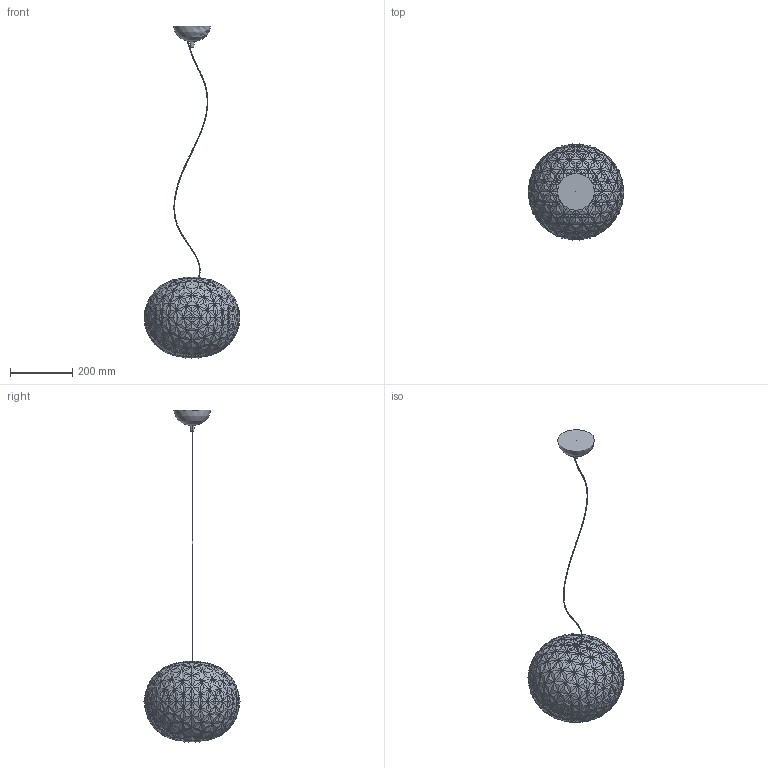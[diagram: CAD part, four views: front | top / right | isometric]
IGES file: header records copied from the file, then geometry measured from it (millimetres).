
Global section: file name: C:\Users\rendering\Desktop\3D\Planet sospensione\Planet_ceiling_3D_Tokujin Yoshioka_Kartell.igs; native system: Rhinoceros ( May 22 2017 ); preprocessor: Trout Lake IGES 012 May 22 2017; date: 190304.103735; units: millimetre
Bounding box: 307.88 x 309.28 x 1069.5 mm (x, y, z)
Surface area: 658218 mm2 (no closed solid volume)
Topology: 0 solids, 0 shells, 3309 faces, 12802 edges, 12787 vertices
Faces by surface type: bspline 3309
